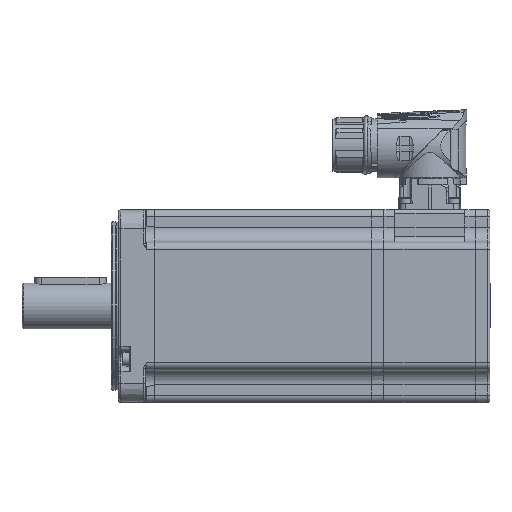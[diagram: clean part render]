
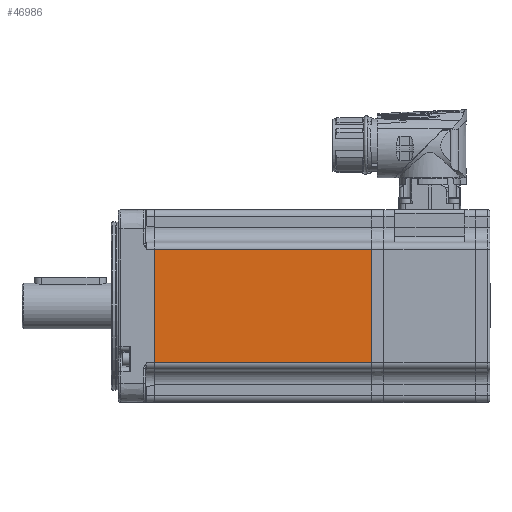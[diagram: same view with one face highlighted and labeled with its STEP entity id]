
A CAD part, left-side view. The second image highlights one B-rep face of the part: STEP entity #46986.
In plain terms, the highlighted planar face has unit normal (-1, 0, 0) as drawn and (0, -1, 0) by its records, which use the part's own axes.
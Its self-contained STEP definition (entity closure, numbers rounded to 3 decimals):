
#2231=LINE('',#61484,#4363);
#2239=LINE('',#61535,#4371);
#2246=LINE('',#61586,#4378);
#2247=LINE('',#61587,#4379);
#4363=VECTOR('',#52606,1000.);
#4371=VECTOR('',#52650,1000.);
#4378=VECTOR('',#52703,1000.);
#4379=VECTOR('',#52704,1000.);
#6488=PLANE('',#49237);
#7480=ORIENTED_EDGE('',*,*,#17244,.T.);
#7481=ORIENTED_EDGE('',*,*,#17222,.T.);
#7482=ORIENTED_EDGE('',*,*,#17245,.T.);
#7483=ORIENTED_EDGE('',*,*,#17197,.T.);
#17197=EDGE_CURVE('',#22083,#22082,#2231,.T.);
#17222=EDGE_CURVE('',#22108,#22107,#2239,.T.);
#17244=EDGE_CURVE('',#22082,#22108,#2246,.F.);
#17245=EDGE_CURVE('',#22107,#22083,#2247,.F.);
#22082=VERTEX_POINT('',#61483);
#22083=VERTEX_POINT('',#61485);
#22107=VERTEX_POINT('',#61534);
#22108=VERTEX_POINT('',#61536);
#26859=EDGE_LOOP('',(#7480,#7481,#7482,#7483));
#29658=FACE_BOUND('',#26859,.T.);
#46986=ADVANCED_FACE('',(#29658),#6488,.T.);
#49237=AXIS2_PLACEMENT_3D('',#61585,#52701,#52702);
#52606=DIRECTION('',(0.,0.,-1.));
#52650=DIRECTION('',(0.,0.,1.));
#52701=DIRECTION('',(0.,-1.,0.));
#52702=DIRECTION('',(0.,0.,-1.));
#52703=DIRECTION('',(-1.,0.,0.));
#52704=DIRECTION('',(1.,0.,0.));
#61483=CARTESIAN_POINT('',(-91.,-40.,-23.5));
#61484=CARTESIAN_POINT('',(-91.,-40.,40.));
#61485=CARTESIAN_POINT('',(-91.,-40.,23.5));
#61534=CARTESIAN_POINT('',(-1.,-40.,23.5));
#61535=CARTESIAN_POINT('',(-1.,-40.,40.));
#61536=CARTESIAN_POINT('',(-1.,-40.,-23.5));
#61585=CARTESIAN_POINT('',(-200.,-40.,40.));
#61586=CARTESIAN_POINT('',(0.,-40.,-23.5));
#61587=CARTESIAN_POINT('',(-200.,-40.,23.5));
